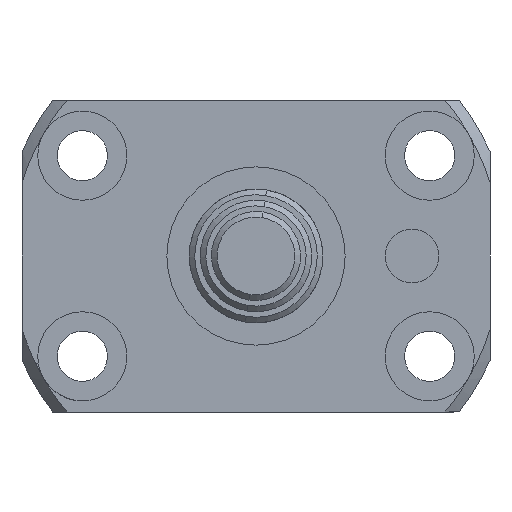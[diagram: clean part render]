
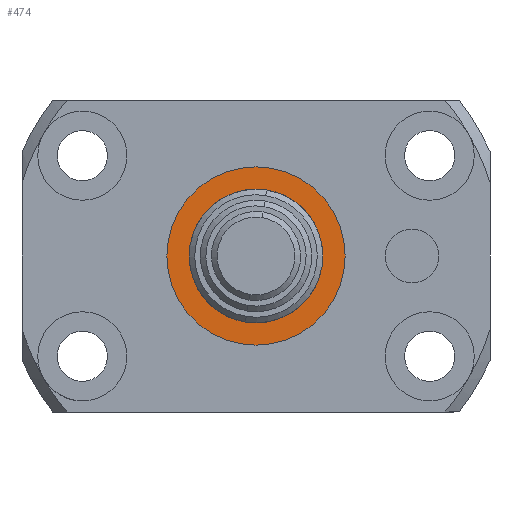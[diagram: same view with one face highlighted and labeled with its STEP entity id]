
A CAD part, left-side view. The second image highlights one B-rep face of the part: STEP entity #474.
In plain terms, the highlighted planar face has unit normal (-1, 0, 0).
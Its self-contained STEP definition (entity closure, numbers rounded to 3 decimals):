
#20 = CARTESIAN_POINT ( 'NONE',  ( 5., 0., 0. ) ) ;
#41 = ORIENTED_EDGE ( 'NONE', *, *, #3362, .T. ) ;
#42 = DIRECTION ( 'NONE',  ( 0., 0., 1. ) ) ;
#82 = ORIENTED_EDGE ( 'NONE', *, *, #3333, .T. ) ;
#320 = ORIENTED_EDGE ( 'NONE', *, *, #2394, .T. ) ;
#327 = DIRECTION ( 'NONE',  ( 0., 0., 1. ) ) ;
#464 = VERTEX_POINT ( 'NONE', #3366 ) ;
#474 = ADVANCED_FACE ( 'NONE', ( #1847, #2667 ), #1860, .T. ) ;
#503 = VERTEX_POINT ( 'NONE', #1571 ) ;
#682 = DIRECTION ( 'NONE',  ( 1., 0., 0. ) ) ;
#796 = ORIENTED_EDGE ( 'NONE', *, *, #3361, .T. ) ;
#879 = CARTESIAN_POINT ( 'NONE',  ( 5., 0., 0. ) ) ;
#1167 = AXIS2_PLACEMENT_3D ( 'NONE', #3702, #1893, #42 ) ;
#1183 = DIRECTION ( 'NONE',  ( 0., 0., 1. ) ) ;
#1500 = CARTESIAN_POINT ( 'NONE',  ( 5., 0., 0. ) ) ;
#1571 = CARTESIAN_POINT ( 'NONE',  ( 5., 0., -8. ) ) ;
#1573 = CIRCLE ( 'NONE', #3409, 8. ) ;
#1609 = AXIS2_PLACEMENT_3D ( 'NONE', #1500, #3611, #3367 ) ;
#1847 = FACE_OUTER_BOUND ( 'NONE', #3591, .T. ) ;
#1860 = PLANE ( 'NONE',  #2421 ) ;
#1882 = CIRCLE ( 'NONE', #1167, 5. ) ;
#1893 = DIRECTION ( 'NONE',  ( 1., 0., 0. ) ) ;
#2141 = CIRCLE ( 'NONE', #2888, 5. ) ;
#2165 = EDGE_LOOP ( 'NONE', ( #41, #796 ) ) ;
#2178 = DIRECTION ( 'NONE',  ( -1., 0., 0. ) ) ;
#2385 = CIRCLE ( 'NONE', #1609, 8. ) ;
#2394 = EDGE_CURVE ( 'NONE', #503, #464, #1573, .T. ) ;
#2421 = AXIS2_PLACEMENT_3D ( 'NONE', #20, #2178, #327 ) ;
#2507 = CARTESIAN_POINT ( 'NONE',  ( 5., 0., 0. ) ) ;
#2629 = CARTESIAN_POINT ( 'NONE',  ( 5., 0., 5. ) ) ;
#2667 = FACE_BOUND ( 'NONE', #2165, .T. ) ;
#2806 = DIRECTION ( 'NONE',  ( 0., 0., 1. ) ) ;
#2888 = AXIS2_PLACEMENT_3D ( 'NONE', #2507, #682, #2806 ) ;
#2992 = DIRECTION ( 'NONE',  ( -1., 0., 0. ) ) ;
#3217 = VERTEX_POINT ( 'NONE', #2629 ) ;
#3333 = EDGE_CURVE ( 'NONE', #464, #503, #2385, .T. ) ;
#3351 = VERTEX_POINT ( 'NONE', #3686 ) ;
#3361 = EDGE_CURVE ( 'NONE', #3351, #3217, #1882, .T. ) ;
#3362 = EDGE_CURVE ( 'NONE', #3217, #3351, #2141, .T. ) ;
#3366 = CARTESIAN_POINT ( 'NONE',  ( 5., 0., 8. ) ) ;
#3367 = DIRECTION ( 'NONE',  ( 0., 0., 1. ) ) ;
#3409 = AXIS2_PLACEMENT_3D ( 'NONE', #879, #2992, #1183 ) ;
#3591 = EDGE_LOOP ( 'NONE', ( #82, #320 ) ) ;
#3611 = DIRECTION ( 'NONE',  ( -1., 0., 0. ) ) ;
#3686 = CARTESIAN_POINT ( 'NONE',  ( 5., 0., -5. ) ) ;
#3702 = CARTESIAN_POINT ( 'NONE',  ( 5., 0., 0. ) ) ;
